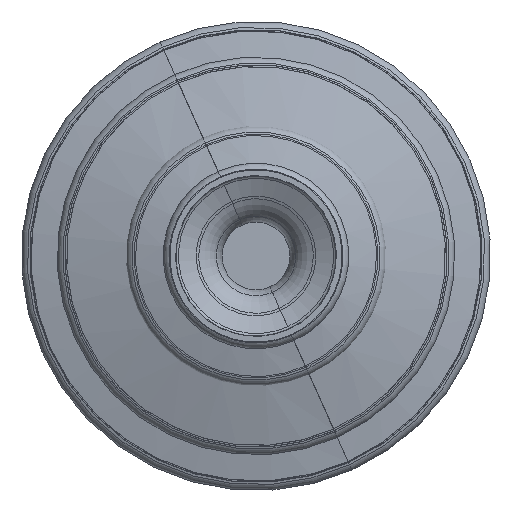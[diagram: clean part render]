
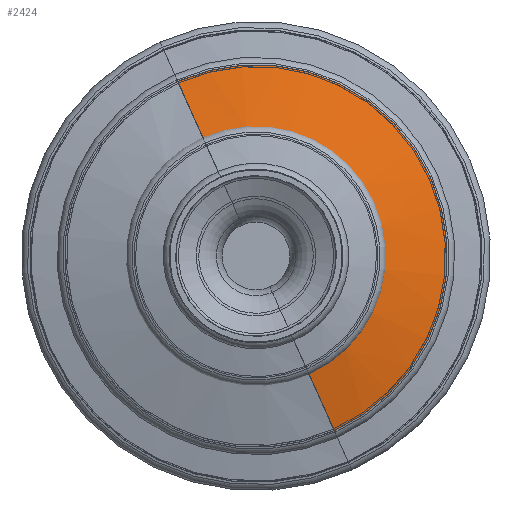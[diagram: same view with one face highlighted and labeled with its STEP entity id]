
A CAD part, front view. The second image highlights one B-rep face of the part: STEP entity #2424.
In plain terms, the highlighted conical face has half-angle 74.017 degrees and reference radius 72.101 mm.
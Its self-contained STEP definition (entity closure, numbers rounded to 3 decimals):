
#167 = ORIENTED_EDGE ( 'NONE', *, *, #7680, .T. ) ;
#358 = EDGE_CURVE ( 'NONE', #9870, #712, #2427, .T. ) ;
#449 = CARTESIAN_POINT ( 'NONE',  ( 0., 308.132, -72.101 ) ) ;
#450 = DIRECTION ( 'NONE',  ( 0., 0., -1. ) ) ;
#559 = CARTESIAN_POINT ( 'NONE',  ( 0., 308.132, -72.101 ) ) ;
#712 = VERTEX_POINT ( 'NONE', #11923 ) ;
#1017 = DIRECTION ( 'NONE',  ( 0., 0.275, 0.961 ) ) ;
#1107 = DIRECTION ( 'NONE',  ( 0., 0., 1. ) ) ;
#1274 = AXIS2_PLACEMENT_3D ( 'NONE', #5854, #9663, #1107 ) ;
#1838 = EDGE_LOOP ( 'NONE', ( #4660, #167, #6472, #5335 ) ) ;
#2424 = ADVANCED_FACE ( 'NONE', ( #10919 ), #3065, .T. ) ;
#2427 = CIRCLE ( 'NONE', #6011, 72.101 ) ;
#2923 = VECTOR ( 'NONE', #1017, 1000. ) ;
#3065 = CONICAL_SURFACE ( 'NONE', #1274, 72.101, 1.292 ) ;
#3676 = DIRECTION ( 'NONE',  ( 0., -1., 0. ) ) ;
#3822 = VERTEX_POINT ( 'NONE', #7632 ) ;
#4393 = LINE ( 'NONE', #559, #7362 ) ;
#4660 = ORIENTED_EDGE ( 'NONE', *, *, #12168, .F. ) ;
#4798 = AXIS2_PLACEMENT_3D ( 'NONE', #11833, #6203, #450 ) ;
#5335 = ORIENTED_EDGE ( 'NONE', *, *, #6118, .F. ) ;
#5854 = CARTESIAN_POINT ( 'NONE',  ( 0., 308.132, 0. ) ) ;
#6011 = AXIS2_PLACEMENT_3D ( 'NONE', #7562, #3676, #6554 ) ;
#6118 = EDGE_CURVE ( 'NONE', #10960, #712, #12337, .T. ) ;
#6203 = DIRECTION ( 'NONE',  ( 0., -1., 0. ) ) ;
#6472 = ORIENTED_EDGE ( 'NONE', *, *, #358, .T. ) ;
#6554 = DIRECTION ( 'NONE',  ( 0., 0., -1. ) ) ;
#6830 = CARTESIAN_POINT ( 'NONE',  ( 0., 308.132, 72.101 ) ) ;
#7362 = VECTOR ( 'NONE', #8005, 1000. ) ;
#7562 = CARTESIAN_POINT ( 'NONE',  ( 0., 308.132, 0. ) ) ;
#7632 = CARTESIAN_POINT ( 'NONE',  ( 0., 294.474, -24.42 ) ) ;
#7680 = EDGE_CURVE ( 'NONE', #3822, #9870, #4393, .T. ) ;
#8005 = DIRECTION ( 'NONE',  ( 0., 0.275, -0.961 ) ) ;
#9236 = CARTESIAN_POINT ( 'NONE',  ( 0., 294.474, 24.42 ) ) ;
#9663 = DIRECTION ( 'NONE',  ( 0., 1., 0. ) ) ;
#9870 = VERTEX_POINT ( 'NONE', #449 ) ;
#10919 = FACE_OUTER_BOUND ( 'NONE', #1838, .T. ) ;
#10960 = VERTEX_POINT ( 'NONE', #9236 ) ;
#11741 = CIRCLE ( 'NONE', #4798, 24.42 ) ;
#11833 = CARTESIAN_POINT ( 'NONE',  ( 0., 294.474, 0. ) ) ;
#11923 = CARTESIAN_POINT ( 'NONE',  ( 0., 308.132, 72.101 ) ) ;
#12168 = EDGE_CURVE ( 'NONE', #3822, #10960, #11741, .T. ) ;
#12337 = LINE ( 'NONE', #6830, #2923 ) ;
